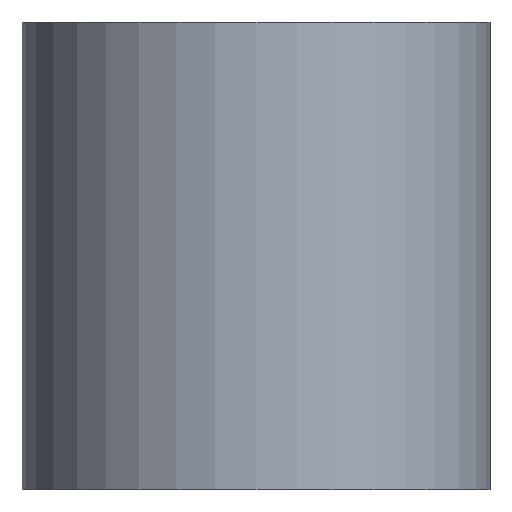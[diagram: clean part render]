
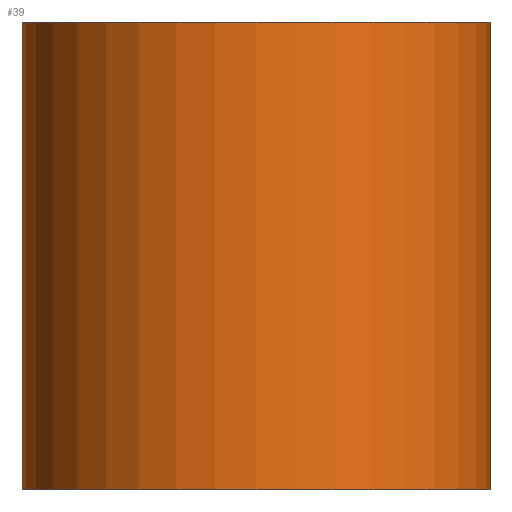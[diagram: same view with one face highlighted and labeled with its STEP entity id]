
A CAD part, front view. The second image highlights one B-rep face of the part: STEP entity #39.
In plain terms, the highlighted cylindrical face has radius 10 mm (diameter 20 mm), a partial arc.
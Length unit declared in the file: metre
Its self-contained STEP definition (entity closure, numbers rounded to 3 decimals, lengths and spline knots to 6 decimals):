
#39=ADVANCED_FACE('',(#72),#73,.T.);
#72=FACE_OUTER_BOUND('',#99,.T.);
#73=CYLINDRICAL_SURFACE('',#100,0.01);
#99=EDGE_LOOP('',(#136,#137,#138,#139));
#100=AXIS2_PLACEMENT_3D('',#140,#141,#142);
#136=ORIENTED_EDGE('',*,*,#166,.F.);
#137=ORIENTED_EDGE('',*,*,#174,.F.);
#138=ORIENTED_EDGE('',*,*,#168,.F.);
#139=ORIENTED_EDGE('',*,*,#175,.T.);
#140=CARTESIAN_POINT('',(-0.003641,0.009626,0.0));
#141=DIRECTION('',(0.0,0.0,-1.0));
#142=DIRECTION('',(1.0,0.0,0.0));
#166=EDGE_CURVE('',#189,#190,#191,.T.);
#168=EDGE_CURVE('',#192,#194,#195,.T.);
#174=EDGE_CURVE('',#194,#189,#201,.T.);
#175=EDGE_CURVE('',#192,#190,#202,.T.);
#189=VERTEX_POINT('',#218);
#190=VERTEX_POINT('',#219);
#191=LINE('',#220,#221);
#192=VERTEX_POINT('',#222);
#194=VERTEX_POINT('',#224);
#195=LINE('',#225,#226);
#201=CIRCLE('',#232,0.01);
#202=CIRCLE('',#233,0.01);
#218=CARTESIAN_POINT('',(0.006359,0.009626,0.0));
#219=CARTESIAN_POINT('',(0.006359,0.009626,-0.02));
#220=CARTESIAN_POINT('',(0.006359,0.009626,0.0));
#221=VECTOR('',#244,1.0);
#222=CARTESIAN_POINT('',(-0.013641,0.009626,-0.02));
#224=CARTESIAN_POINT('',(-0.013641,0.009626,0.0));
#225=CARTESIAN_POINT('',(-0.013641,0.009626,0.0));
#226=VECTOR('',#248,1.0);
#232=AXIS2_PLACEMENT_3D('',#258,#259,#260);
#233=AXIS2_PLACEMENT_3D('',#261,#262,#263);
#244=DIRECTION('',(0.0,0.0,-1.0));
#248=DIRECTION('',(0.0,0.0,1.0));
#258=CARTESIAN_POINT('',(-0.003641,0.009626,0.0));
#259=DIRECTION('',(0.0,0.0,1.0));
#260=DIRECTION('',(1.0,0.0,-0.0));
#261=CARTESIAN_POINT('',(-0.003641,0.009626,-0.02));
#262=DIRECTION('',(0.0,0.0,1.0));
#263=DIRECTION('',(1.0,0.0,0.0));
